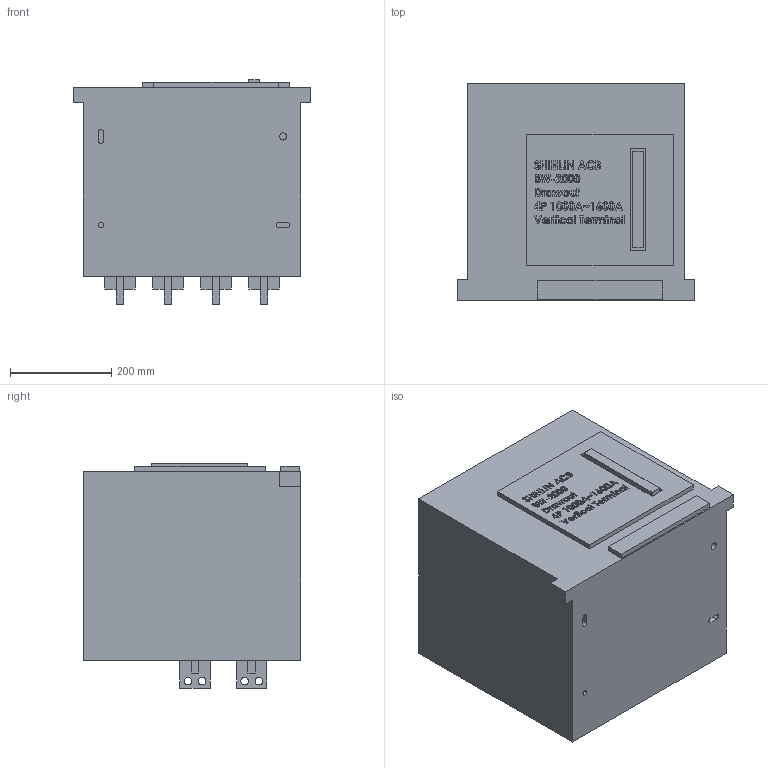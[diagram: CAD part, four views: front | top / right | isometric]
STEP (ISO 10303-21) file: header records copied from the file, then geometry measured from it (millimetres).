
FILE_DESCRIPTION (( 'STEP AP203' ), '1' );
FILE_NAME ('BW-2000-Drawout-4P-1000-1600A-Vertical Terminal.STEP', '2016-11-03T01:08:14', ( '' ), ( '' ), 'SwSTEP 2.0', 'SolidWorks 2015', '' );
FILE_SCHEMA (( 'CONFIG_CONTROL_DESIGN' ));
Length unit declared in the file: millimetre
Products named in the file (1): BW-2000-Drawout-4P-1000-1600A-Vertical Terminal
Bounding box: 470 x 430 x 443.5 mm (x, y, z)
Volume: 70379528.6 mm3; surface area: 1169838.4 mm2
Topology: 1 solids, 1 shells, 829 faces, 2193 edges, 1462 vertices
Faces by surface type: plane 534, bspline 254, cylinder 41
Entity records: 39270 total; most frequent: CARTESIAN_POINT 20203, ORIENTED_EDGE 4386, DIRECTION 2919, EDGE_CURVE 2193, VECTOR 1603, LINE 1603, VERTEX_POINT 1462, EDGE_LOOP 957
